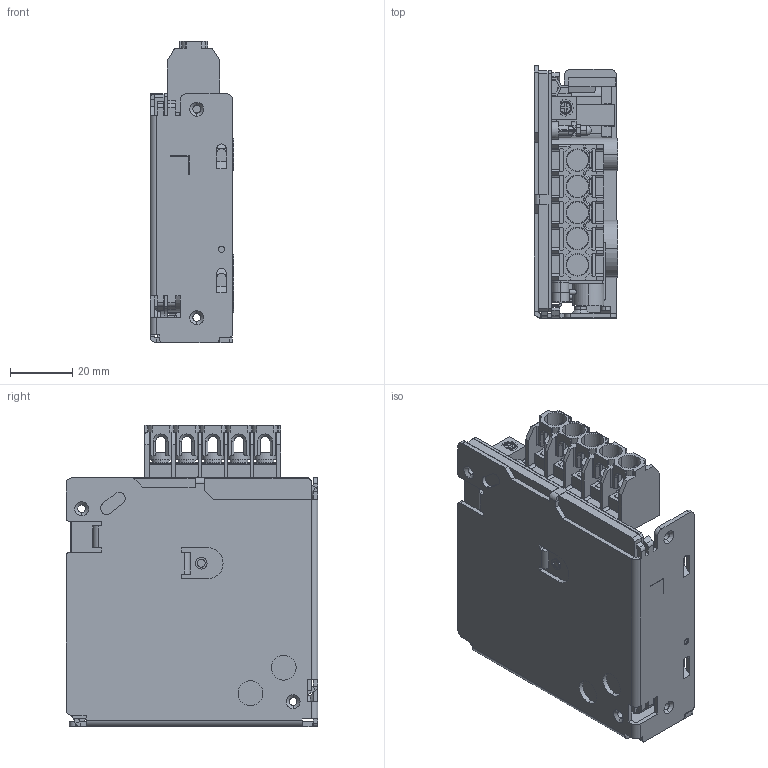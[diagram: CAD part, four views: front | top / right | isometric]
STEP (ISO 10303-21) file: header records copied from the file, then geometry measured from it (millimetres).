
FILE_DESCRIPTION (( 'STEP AP214' ), '1' );
FILE_NAME ('hws15a_outline.STEP', '2013-11-18T05:07:18', ( 'tluser' ), ( '' ), 'SwSTEP 2.0', 'SolidWorks 2013', '' );
FILE_SCHEMA (( 'AUTOMOTIVE_DESIGN' ));
Length unit declared in the file: millimetre
Products named in the file (1): hws15a_outline
Bounding box: 27 x 81 x 96.8 mm (x, y, z)
Volume: 70424.5 mm3; surface area: 44505.4 mm2
Topology: 1 solids, 30 shells, 2116 faces, 5874 edges, 3831 vertices
Faces by surface type: plane 1413, cylinder 577, torus 48, cone 42, bspline 33, sphere 3
Entity records: 92157 total; most frequent: CARTESIAN_POINT 13850, ORIENTED_EDGE 11722, DIRECTION 11106, EDGE_CURVE 5861, LINE 4424, VECTOR 4424, VERTEX_POINT 3829, AXIS2_PLACEMENT_3D 3341
